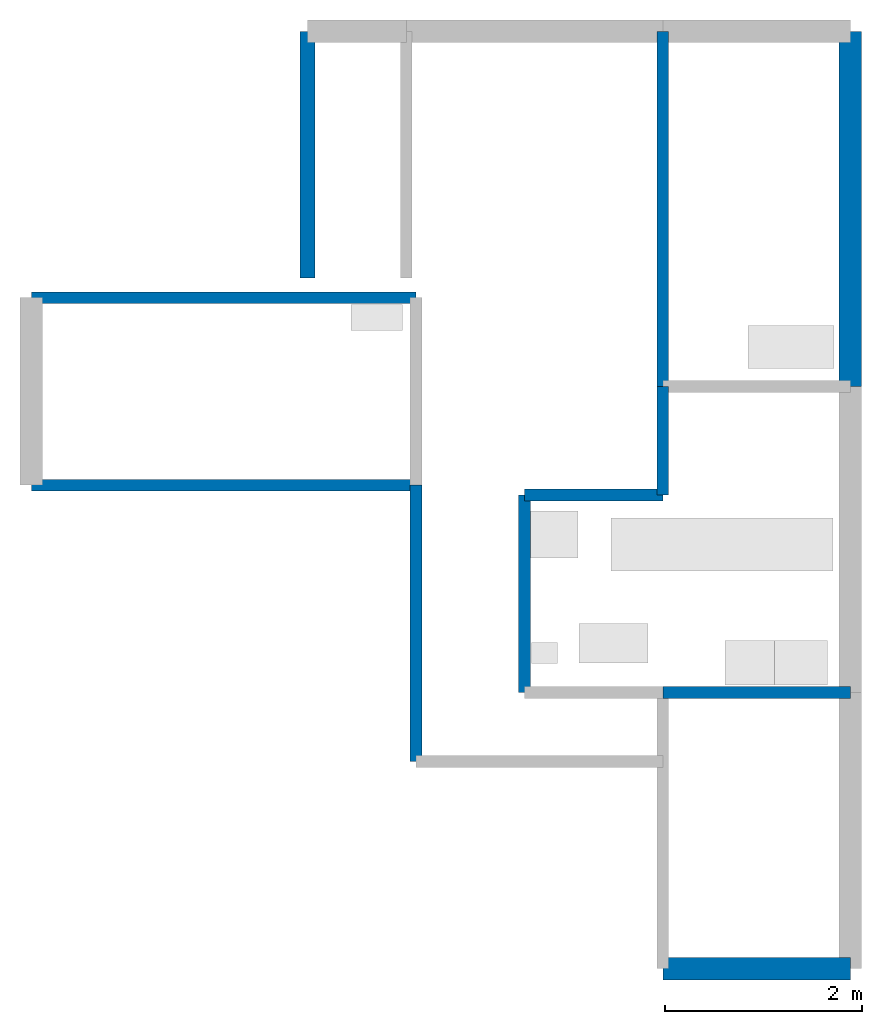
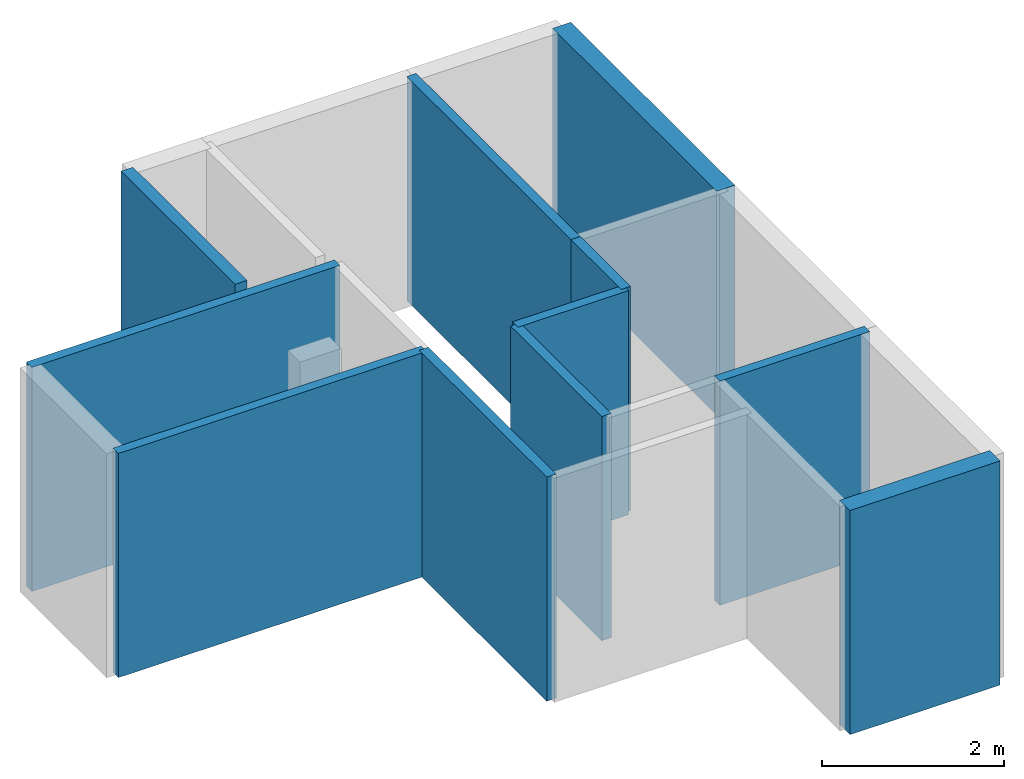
# One storey, part 1 of 3: 11 walls.
"""IFC4 building model written with IfcOpenShell, lengths in metres."""

from ifc_helpers import new_model, si_unit, frame, origin, place, context, project, spatial, polyline, outline, extrude, element, save


model = new_model("IFC4")

# Units and contexts
model_context = context("Model", 3, precision=1e-05, world=origin())
ifc_project = project(units=[si_unit("LENGTHUNIT", "METRE")], contexts=[model_context])

# Site, building, storey
site_placement = place(None, origin())
site = spatial("IfcSite", under=ifc_project, at=site_placement, Name="Site")
building_placement = place(site_placement, origin())
building = spatial("IfcBuilding", under=site, at=building_placement, Name="Structure")
storey_placement = place(building_placement, origin())
storey = spatial("IfcBuildingStorey", under=building, at=storey_placement, Name="Ground Floor")

# Walls
wall_1_placement = place(storey_placement, frame((9.8, 6.1, 0.0), x_axis=(6.12323399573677e-17, 1.0, 0.0)))
element("IfcWallStandardCase", 1, at=wall_1_placement, inside=storey, Name="wall_ext_right_top", context=model_context, shape_type="SweptSolid", body=[
    extrude(outline(polyline([(0.0, -0.115), (3.6, -0.115), (3.6, 0.115), (0.0, 0.115), (0.0, -0.115)])), origin(), (0.0, 0.0, 1.0), 3.0),
])
wall_2_placement = place(storey_placement, frame((7.9, 0.2, 0.0), x_axis=(1.0, 0.0, 0.0)))
element("IfcWallStandardCase", 2, at=wall_2_placement, inside=storey, Name="wall_ext_bot_right", context=model_context, shape_type="SweptSolid", body=[
    extrude(outline(polyline([(0.0, -0.115), (1.9, -0.115), (1.9, 0.115), (0.0, 0.115), (0.0, -0.115)])), origin(), (0.0, 0.0, 1.0), 3.0),
])
wall_3_placement = place(storey_placement, frame((7.9, 6.1, 0.0), x_axis=(6.12323399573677e-17, 1.0, 0.0)))
element("IfcWallStandardCase", 3, at=wall_3_placement, inside=storey, Name="wall_int_living_bed_tr", context=model_context, shape_type="SweptSolid", body=[
    extrude(outline(polyline([(0.0, -0.06), (3.6, -0.06), (3.6, 0.06), (0.0, 0.06), (0.0, -0.06)])), origin(), (0.0, 0.0, 1.0), 3.0),
])
wall_4_placement = place(storey_placement, frame((7.9, 5.0, 0.0), x_axis=(6.12323399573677e-17, 1.0, 0.0)))
element("IfcWallStandardCase", 4, at=wall_4_placement, inside=storey, Name="wall_int_living_kitchen", context=model_context, shape_type="SweptSolid", body=[
    extrude(outline(polyline([(0.0, -0.06), (1.1, -0.06), (1.1, 0.06), (0.0, 0.06), (0.0, -0.06)])), origin(), (0.0, 0.0, 1.0), 3.0),
])
wall_5_placement = place(storey_placement, frame((6.5, 5.0, 0.0), x_axis=(1.0, 0.0, 0.0)))
element("IfcWallStandardCase", 5, at=wall_5_placement, inside=storey, Name="wall_int_bath_top", context=model_context, shape_type="SweptSolid", body=[
    extrude(outline(polyline([(0.0, -0.06), (1.4, -0.06), (1.4, 0.06), (0.0, 0.06), (0.0, -0.06)])), origin(), (0.0, 0.0, 1.0), 3.0),
])
wall_6_placement = place(storey_placement, frame((6.5, 3.0, 0.0), x_axis=(6.12323399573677e-17, 1.0, 0.0)))
element("IfcWallStandardCase", 6, at=wall_6_placement, inside=storey, Name="wall_int_bath_left", context=model_context, shape_type="SweptSolid", body=[
    extrude(outline(polyline([(0.0, -0.06), (2.0, -0.06), (2.0, 0.06), (0.0, 0.06), (0.0, -0.06)])), origin(), (0.0, 0.0, 1.0), 3.0),
])
wall_7_placement = place(storey_placement, frame((7.9, 3.0, 0.0), x_axis=(1.0, 0.0, 0.0)))
element("IfcWallStandardCase", 7, at=wall_7_placement, inside=storey, Name="wall_int_kitchen_bot", context=model_context, shape_type="SweptSolid", body=[
    extrude(outline(polyline([(0.0, -0.06), (1.9, -0.06), (1.9, 0.06), (0.0, 0.06), (0.0, -0.06)])), origin(), (0.0, 0.0, 1.0), 3.0),
])
wall_8_placement = place(storey_placement, frame((5.4, 2.3, 0.0), x_axis=(6.12323399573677e-17, 1.0, 0.0)))
element("IfcWallStandardCase", 8, at=wall_8_placement, inside=storey, Name="wall_int_corridor_left", context=model_context, shape_type="SweptSolid", body=[
    extrude(outline(polyline([(0.0, -0.06), (2.8, -0.06), (2.8, 0.06), (0.0, 0.06), (0.0, -0.06)])), origin(), (0.0, 0.0, 1.0), 3.0),
])
for number, where, x_axis, name in (
    (9, (1.5, 7.0, 0.0), (1.0, 0.0, 0.0), "wall_int_bed_ml_top"),
    (10, (1.5, 5.1, 0.0), (1.0, 0.0, 0.0), "wall_int_bed_ml_bot"),
):
    element("IfcWallStandardCase", number, at=place(storey_placement, frame(where, x_axis=x_axis)), inside=storey, Name=name, context=model_context, shape_type="SweptSolid", body=[
        extrude(outline(polyline([(0.0, -0.06), (3.9, -0.06), (3.9, 0.06), (0.0, 0.06), (0.0, -0.06)])), origin(), (0.0, 0.0, 1.0), 3.0),
    ])
wall_9_placement = place(storey_placement, frame((4.3, 7.2, 0.0), x_axis=(6.12323399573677e-17, 1.0, 0.0)))
element("IfcWallStandardCase", 11, at=wall_9_placement, inside=storey, Name="wall_ext_balc_tl_left", context=model_context, shape_type="SweptSolid", body=[
    extrude(outline(polyline([(0.0, -0.075), (2.5, -0.075), (2.5, 0.075), (0.0, 0.075), (0.0, -0.075)])), origin(), (0.0, 0.0, 1.0), 3.0),
])

save(model, "model.ifc")
